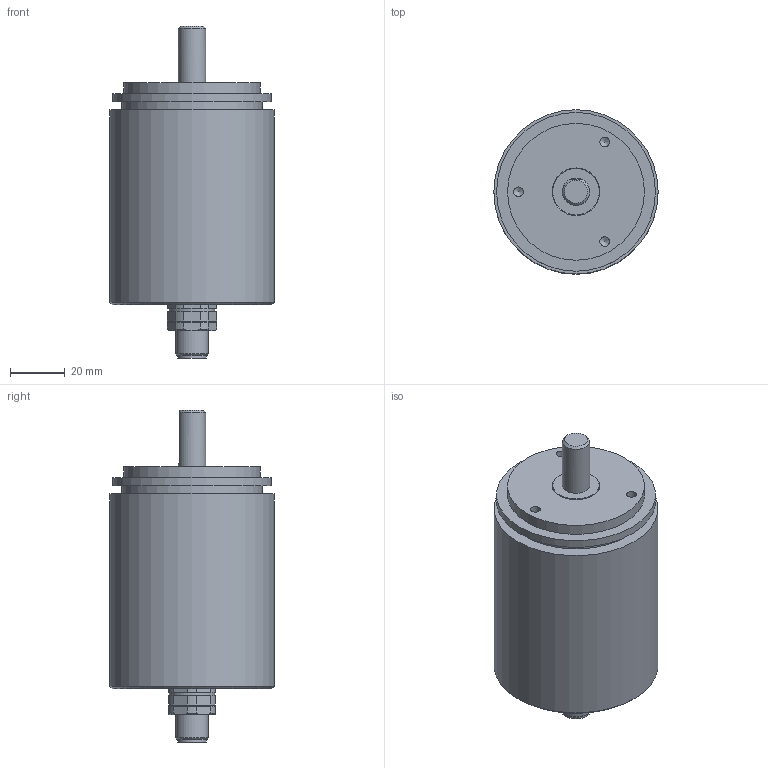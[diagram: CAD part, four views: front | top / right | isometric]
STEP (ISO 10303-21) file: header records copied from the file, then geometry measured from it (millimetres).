
FILE_DESCRIPTION(/* description */ ('Alibre Inc.'),/* implementation_level */ '2;1');
FILE_NAME(/* name */ 'export0',/* time_stamp */ '2016-10-21T14:18:06-04:00',/* author */ (''),/* organization */ (''),/* preprocessor_version */ 'ST-DEVELOPER v14',/* originating_system */ 'Alibre',/* authorisation */ '');
FILE_SCHEMA (('CONFIG_CONTROL_DESIGN'));
Length unit declared in the file: centimetre
Products named in the file (1): ID_1
Bounding box: 60 x 60 x 121.28 mm (x, y, z)
Volume: 139033.6 mm3; surface area: 40048.5 mm2
Topology: 3 solids, 42 shells, 270 faces, 450 edges, 294 vertices
Faces by surface type: plane 141, cylinder 100, cone 26, bspline 3
Full cylindrical faces by diameter (mm): 1.4 x8, 2.87 x2, 2.92 x1, 3 x35, 3.545 x3, 8.3 x1, 9.9 x2, 10 x3, 10.5 x1, 11.8 x1, 12 x1, 13.5 x2, 14 x1, 15.2 x1, 16.5 x1, 17 x2, 20 x1, 26 x1, 46 x1, 50 x1, 51.5 x1, 55.8 x1, 58 x1, 60 x1
Entity records: 5648 total; most frequent: CARTESIAN_POINT 1049, DIRECTION 913, ORIENTED_EDGE 684, AXIS2_PLACEMENT_3D 462, FACE_BOUND 406, EDGE_LOOP 403, EDGE_CURVE 342, VERTEX_POINT 284
